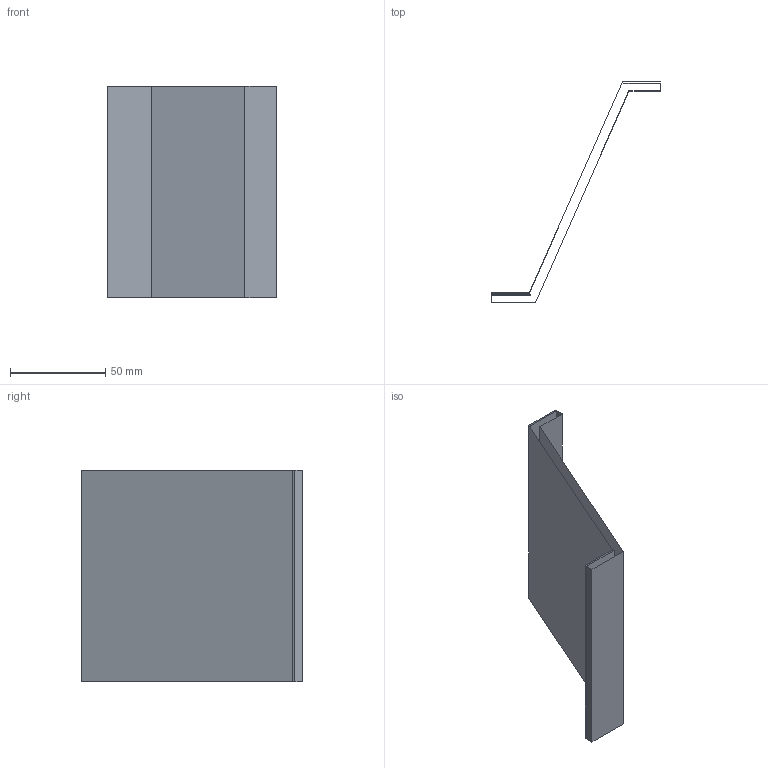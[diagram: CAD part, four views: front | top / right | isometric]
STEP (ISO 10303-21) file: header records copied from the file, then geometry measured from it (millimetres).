
FILE_DESCRIPTION(('CATIA V5 STEP Exchange'),'2;1');
FILE_NAME('C:\_Andres\UNIVERSIDAD\IQS\ASIGNATURAS\DAO\EXF\EXF-16172c\2inicio\Espinel_Roig_Ej06_v11.stp','2017-03-05T21:01:23+00:00',('none'),('none'),'CATIA Version 5-6 Release 2014 SP1 HF18','CATIA V5 STEP AP203','none');
FILE_SCHEMA(('CONFIG_CONTROL_DESIGN'));
Length unit declared in the file: millimetre
Products named in the file (1): Espinel_Roig_Ej06_v11
Bounding box: 89 x 116 x 111 mm (x, y, z)
Surface area: 41144.2 mm2 (no closed solid volume)
Topology: 0 solids, 2 shells, 10 faces, 42 edges, 36 vertices
Faces by surface type: plane 10
Entity records: 461 total; most frequent: CARTESIAN_POINT 100, DIRECTION 59, ORIENTED_EDGE 40, VECTOR 39, LINE 39, EDGE_CURVE 32, VERTEX_POINT 24, AXIS2_PLACEMENT_3D 11
